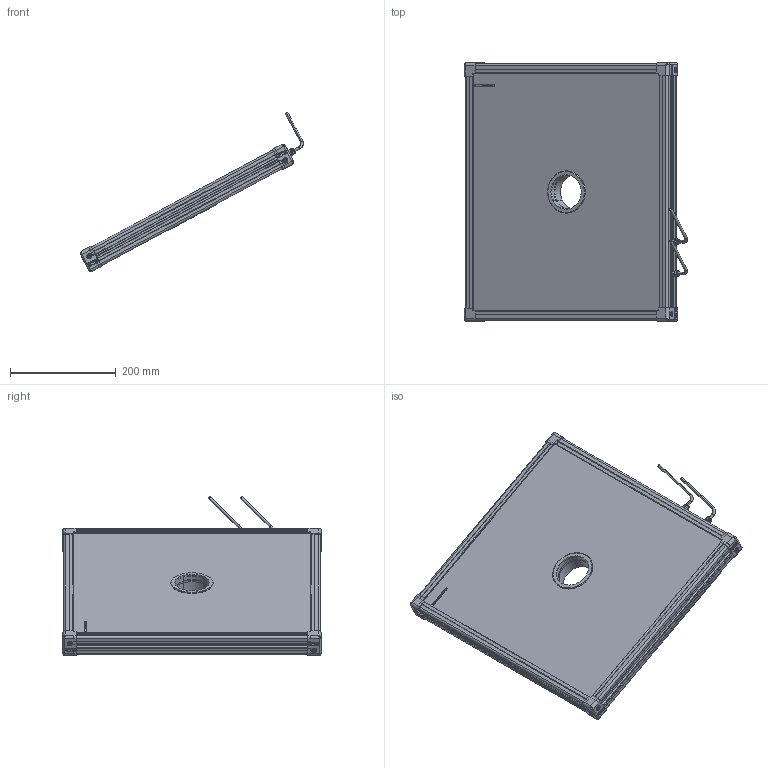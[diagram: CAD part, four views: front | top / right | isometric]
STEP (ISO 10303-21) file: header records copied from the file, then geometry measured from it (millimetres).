
FILE_DESCRIPTION (( 'STEP AP214' ), '1' );
FILE_NAME ('EFFI-FD-400-450-ZZZ-2M12.STEP', '2021-06-23T10:42:44', ( '' ), ( '' ), 'SwSTEP 2.0', 'SolidWorks 2021', '' );
FILE_SCHEMA (( 'AUTOMOTIVE_DESIGN' ));
Length unit declared in the file: millimetre
Products named in the file (13): petite joue + vis; Assemblage Ø65; profile Y_PERCE; profile X_PERCE; cordon_Avec cable; 000590; Pièce13^EFFI-FD-XXX-YYY-ZZZ (2 connecteurs) Ø65; 004408; petite joue; EFFI-FD-400-450-ZZZ-2M12; 000629; 004409
Assembly tree (20 placements, depth 3):
  EFFI-FD-400-450-ZZZ-2M12
    profile X_PERCE  x2
    profile Y_PERCE
    profile Y_PERCE
    Pièce13^EFFI-FD-XXX-YYY-ZZZ (2 connecteurs) Ø65
    petite joue + vis  x4
      petite joue
      000629
    Assemblage Ø65
      004408
      004409
      000590  x3
    cordon_Avec cable  x2
Bounding box: 422.59 x 489 x 300.91 mm (x, y, z)
Volume: 7317477.1 mm3; surface area: 743640.8 mm2
Topology: 22 solids, 34 shells, 4049 faces, 10756 edges, 7058 vertices
Faces by surface type: plane 2496, cylinder 741, bspline 603, cone 156, torus 45, sphere 8
Entity records: 57059 total; most frequent: CARTESIAN_POINT 22766, ORIENTED_EDGE 7140, DIRECTION 5899, EDGE_CURVE 3574, LINE 2493, VECTOR 2493, VERTEX_POINT 2349, AXIS2_PLACEMENT_3D 1703
